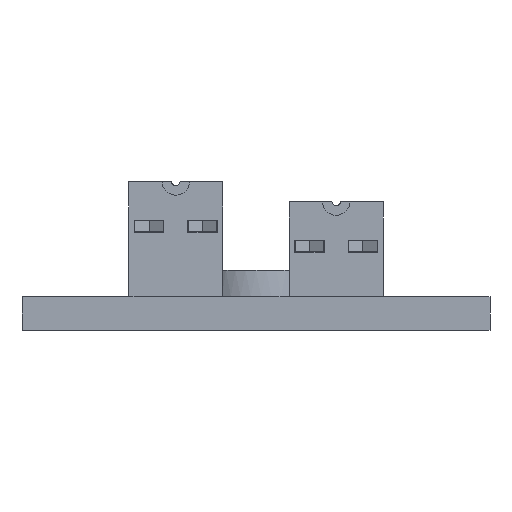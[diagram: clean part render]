
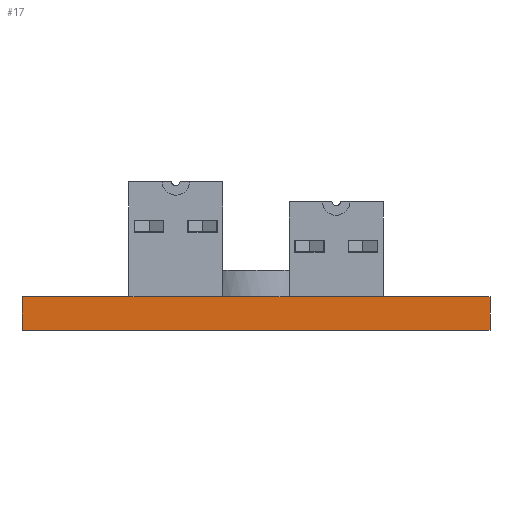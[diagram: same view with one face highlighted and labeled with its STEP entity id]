
A CAD part, left-side view. The second image highlights one B-rep face of the part: STEP entity #17.
In plain terms, the highlighted planar face has unit normal (-1, 0, 0).
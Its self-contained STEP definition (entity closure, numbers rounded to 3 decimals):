
#17 = ADVANCED_FACE('',(#18),#32,.F.);
#18 = FACE_BOUND('',#19,.F.);
#19 = EDGE_LOOP('',(#20,#55,#83,#111));
#20 = ORIENTED_EDGE('',*,*,#21,.F.);
#21 = EDGE_CURVE('',#22,#24,#26,.T.);
#22 = VERTEX_POINT('',#23);
#23 = CARTESIAN_POINT('',(-63.,-35.,-43.));
#24 = VERTEX_POINT('',#25);
#25 = CARTESIAN_POINT('',(-63.,-35.,-38.));
#26 = SURFACE_CURVE('',#27,(#31,#43),.PCURVE_S1.);
#27 = LINE('',#28,#29);
#28 = CARTESIAN_POINT('',(-63.,-35.,-43.));
#29 = VECTOR('',#30,1.);
#30 = DIRECTION('',(0.,0.,1.));
#31 = PCURVE('',#32,#37);
#32 = PLANE('',#33);
#33 = AXIS2_PLACEMENT_3D('',#34,#35,#36);
#34 = CARTESIAN_POINT('',(-63.,-35.,-43.));
#35 = DIRECTION('',(1.,0.,-0.));
#36 = DIRECTION('',(0.,0.,1.));
#37 = DEFINITIONAL_REPRESENTATION('',(#38),#42);
#38 = LINE('',#39,#40);
#39 = CARTESIAN_POINT('',(0.,0.));
#40 = VECTOR('',#41,1.);
#41 = DIRECTION('',(1.,0.));
#42 = ( GEOMETRIC_REPRESENTATION_CONTEXT(2) 
PARAMETRIC_REPRESENTATION_CONTEXT() REPRESENTATION_CONTEXT('2D SPACE',''
  ) );
#43 = PCURVE('',#44,#49);
#44 = PLANE('',#45);
#45 = AXIS2_PLACEMENT_3D('',#46,#47,#48);
#46 = CARTESIAN_POINT('',(-63.,-35.,-43.));
#47 = DIRECTION('',(-0.,1.,0.));
#48 = DIRECTION('',(0.,0.,1.));
#49 = DEFINITIONAL_REPRESENTATION('',(#50),#54);
#50 = LINE('',#51,#52);
#51 = CARTESIAN_POINT('',(0.,0.));
#52 = VECTOR('',#53,1.);
#53 = DIRECTION('',(1.,0.));
#54 = ( GEOMETRIC_REPRESENTATION_CONTEXT(2) 
PARAMETRIC_REPRESENTATION_CONTEXT() REPRESENTATION_CONTEXT('2D SPACE',''
  ) );
#55 = ORIENTED_EDGE('',*,*,#56,.T.);
#56 = EDGE_CURVE('',#22,#57,#59,.T.);
#57 = VERTEX_POINT('',#58);
#58 = CARTESIAN_POINT('',(-63.,35.,-43.));
#59 = SURFACE_CURVE('',#60,(#64,#71),.PCURVE_S1.);
#60 = LINE('',#61,#62);
#61 = CARTESIAN_POINT('',(-63.,-35.,-43.));
#62 = VECTOR('',#63,1.);
#63 = DIRECTION('',(-0.,1.,0.));
#64 = PCURVE('',#32,#65);
#65 = DEFINITIONAL_REPRESENTATION('',(#66),#70);
#66 = LINE('',#67,#68);
#67 = CARTESIAN_POINT('',(0.,0.));
#68 = VECTOR('',#69,1.);
#69 = DIRECTION('',(0.,-1.));
#70 = ( GEOMETRIC_REPRESENTATION_CONTEXT(2) 
PARAMETRIC_REPRESENTATION_CONTEXT() REPRESENTATION_CONTEXT('2D SPACE',''
  ) );
#71 = PCURVE('',#72,#77);
#72 = PLANE('',#73);
#73 = AXIS2_PLACEMENT_3D('',#74,#75,#76);
#74 = CARTESIAN_POINT('',(-63.,-35.,-43.));
#75 = DIRECTION('',(0.,0.,1.));
#76 = DIRECTION('',(1.,0.,-0.));
#77 = DEFINITIONAL_REPRESENTATION('',(#78),#82);
#78 = LINE('',#79,#80);
#79 = CARTESIAN_POINT('',(0.,0.));
#80 = VECTOR('',#81,1.);
#81 = DIRECTION('',(0.,1.));
#82 = ( GEOMETRIC_REPRESENTATION_CONTEXT(2) 
PARAMETRIC_REPRESENTATION_CONTEXT() REPRESENTATION_CONTEXT('2D SPACE',''
  ) );
#83 = ORIENTED_EDGE('',*,*,#84,.T.);
#84 = EDGE_CURVE('',#57,#85,#87,.T.);
#85 = VERTEX_POINT('',#86);
#86 = CARTESIAN_POINT('',(-63.,35.,-38.));
#87 = SURFACE_CURVE('',#88,(#92,#99),.PCURVE_S1.);
#88 = LINE('',#89,#90);
#89 = CARTESIAN_POINT('',(-63.,35.,-43.));
#90 = VECTOR('',#91,1.);
#91 = DIRECTION('',(0.,0.,1.));
#92 = PCURVE('',#32,#93);
#93 = DEFINITIONAL_REPRESENTATION('',(#94),#98);
#94 = LINE('',#95,#96);
#95 = CARTESIAN_POINT('',(0.,-70.));
#96 = VECTOR('',#97,1.);
#97 = DIRECTION('',(1.,0.));
#98 = ( GEOMETRIC_REPRESENTATION_CONTEXT(2) 
PARAMETRIC_REPRESENTATION_CONTEXT() REPRESENTATION_CONTEXT('2D SPACE',''
  ) );
#99 = PCURVE('',#100,#105);
#100 = PLANE('',#101);
#101 = AXIS2_PLACEMENT_3D('',#102,#103,#104);
#102 = CARTESIAN_POINT('',(-63.,35.,-43.));
#103 = DIRECTION('',(-0.,1.,0.));
#104 = DIRECTION('',(0.,0.,1.));
#105 = DEFINITIONAL_REPRESENTATION('',(#106),#110);
#106 = LINE('',#107,#108);
#107 = CARTESIAN_POINT('',(0.,0.));
#108 = VECTOR('',#109,1.);
#109 = DIRECTION('',(1.,0.));
#110 = ( GEOMETRIC_REPRESENTATION_CONTEXT(2) 
PARAMETRIC_REPRESENTATION_CONTEXT() REPRESENTATION_CONTEXT('2D SPACE',''
  ) );
#111 = ORIENTED_EDGE('',*,*,#112,.F.);
#112 = EDGE_CURVE('',#24,#85,#113,.T.);
#113 = SURFACE_CURVE('',#114,(#118,#125),.PCURVE_S1.);
#114 = LINE('',#115,#116);
#115 = CARTESIAN_POINT('',(-63.,-35.,-38.));
#116 = VECTOR('',#117,1.);
#117 = DIRECTION('',(-0.,1.,0.));
#118 = PCURVE('',#32,#119);
#119 = DEFINITIONAL_REPRESENTATION('',(#120),#124);
#120 = LINE('',#121,#122);
#121 = CARTESIAN_POINT('',(5.,0.));
#122 = VECTOR('',#123,1.);
#123 = DIRECTION('',(0.,-1.));
#124 = ( GEOMETRIC_REPRESENTATION_CONTEXT(2) 
PARAMETRIC_REPRESENTATION_CONTEXT() REPRESENTATION_CONTEXT('2D SPACE',''
  ) );
#125 = PCURVE('',#126,#131);
#126 = PLANE('',#127);
#127 = AXIS2_PLACEMENT_3D('',#128,#129,#130);
#128 = CARTESIAN_POINT('',(-63.,-35.,-38.));
#129 = DIRECTION('',(0.,0.,1.));
#130 = DIRECTION('',(1.,0.,-0.));
#131 = DEFINITIONAL_REPRESENTATION('',(#132),#136);
#132 = LINE('',#133,#134);
#133 = CARTESIAN_POINT('',(0.,0.));
#134 = VECTOR('',#135,1.);
#135 = DIRECTION('',(0.,1.));
#136 = ( GEOMETRIC_REPRESENTATION_CONTEXT(2) 
PARAMETRIC_REPRESENTATION_CONTEXT() REPRESENTATION_CONTEXT('2D SPACE',''
  ) );
